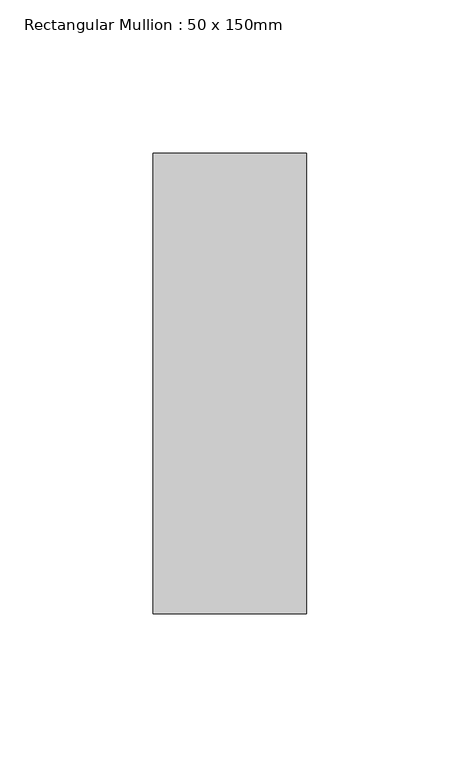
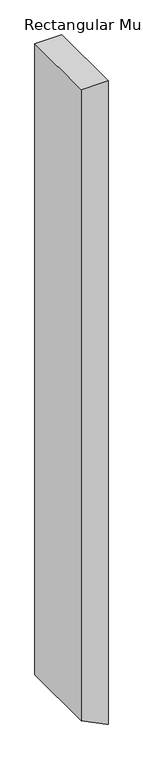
"""IFC4 building model written with IfcOpenShell, lengths in millimetres: member geometry, Rectangular Mullion : 50 x 150mm."""

from ifc_helpers import new_model, si_unit, frame, origin, place, context, project, spatial, circle_curve, source, transform, mapped, element, save
from ifc_brep_helpers import plane_surface, cylinder_surface, advanced_brep


def rectangular_mullion_50_x_150mm_d3586647(model_context):
    return source(origin(), model_context, "Body", "AdvancedBrep", [
        advanced_brep(
        [(25.0, 75.0, 0.0), (-25.0, 75.0, 0.0), (-25.0, -75.0, 0.0), (25.0, -75.0, 0.0), (25.0, 75.0, -1269.6688692), (21.4791438, 75.0, -1267.9970995), (-25.0, 75.0, -1245.3295707), (-25.0, -75.0, -1245.3295707), (21.4791438, -75.0, -1267.9970995), (25.0, -75.0, -1269.6688692)],
        [
            (0, 1),
            (1, 2),
            (2, 3),
            (3, 0),
            (0, 4),
            (4, 5, circle_curve(frame((1164.2156059, 75.0, 1134.1383308), z_axis=(0.0, 1.0, 0.0), x_axis=(-0.1651414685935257, 0.0, -0.9862698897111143)), 2660.0942185)),
            (5, 6, circle_curve(frame((1164.2156059, 75.0, 1134.1383308), z_axis=(0.0, 1.0, 0.0), x_axis=(-0.4295849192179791, 0.0, -0.9030264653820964)), 2660.0942185)),
            (6, 1),
            (6, 7),
            (7, 2),
            (7, 8, circle_curve(frame((1164.2156059, -75.0, 1134.1383308), z_axis=(0.0, -1.0, 0.0), x_axis=(-0.4295849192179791, 0.0, -0.9030264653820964)), 2660.0942185)),
            (8, 9, circle_curve(frame((1164.2156059, -75.0, 1134.1383308), z_axis=(0.0, -1.0, 0.0), x_axis=(-0.1651414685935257, 0.0, -0.9862698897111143)), 2660.0942185)),
            (9, 3),
            (9, 4),
            (8, 5),
        ],
        [
            plane_surface(frame((0.0, -79.0569415, 0.0), z_axis=(0.0, 0.0, 1.0), x_axis=(-1.0, 0.0, 0.0))),
            plane_surface(frame((25.0, 75.0, 0.0), z_axis=(0.0, 1.0, 0.0), x_axis=(0.0, 0.0, -1.0))),
            plane_surface(frame((-25.0, 75.0, 0.0), z_axis=(-1.0, 0.0, 0.0), x_axis=(0.0, 0.0, -1.0))),
            plane_surface(frame((-25.0, -75.0, 0.0), z_axis=(0.0, -1.0, 0.0), x_axis=(0.0, 0.0, -1.0))),
            plane_surface(frame((25.0, -75.0, 0.0), z_axis=(1.0, 0.0, 0.0), x_axis=(0.0, 0.0, -1.0))),
            cylinder_surface(frame((1164.2156059, 0.0, 1134.1383308), z_axis=(0.0, 1.0, 0.0), x_axis=(-0.1651414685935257, 0.0, -0.9862698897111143)), 2660.0942185),
            cylinder_surface(frame((1164.2156059, 0.0, 1134.1383308), z_axis=(0.0, 1.0000000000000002, 0.0), x_axis=(-0.4295849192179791, 0.0, -0.9030264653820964)), 2660.0942185),
        ],
        [
            (0, [[1, 2, 3, 4]]),
            (1, [[-1, 5, 6, 7, 8]]),
            (2, [[-2, -8, 9, 10]]),
            (3, [[-3, -10, 11, 12, 13]]),
            (4, [[-4, -13, 14, -5]]),
            (5, [[-14, -12, 15, -6]]),
            (6, [[-11, -9, -7, -15]]),
        ],
    ),
    ])


if __name__ == "__main__":
    model = new_model("IFC4")
    model_context = context("Model", 3, world=origin())
    ifc_project = project(units=[si_unit("LENGTHUNIT", "METRE", prefix="MILLI")], contexts=[model_context])
    site = spatial("IfcSite", under=ifc_project)
    building = spatial("IfcBuilding", under=site)
    placement = place(None, origin())
    rectangular_mullion_50_x_150mm_shape = rectangular_mullion_50_x_150mm_d3586647(model_context)
    element("IfcMember", 1, ObjectType="Rectangular Mullion : 50 x 150mm", at=placement, inside=building, context=model_context, shape_type="MappedRepresentation", body=[
        mapped(rectangular_mullion_50_x_150mm_shape, transform((0.0, 0.0, 0.0), x_axis=(1.0, 0.0, 0.0), y_axis=(0.0, 1.0, 0.0), z_axis=(0.0, 0.0, 1.0))),
    ])
    save(model, "model.ifc")
